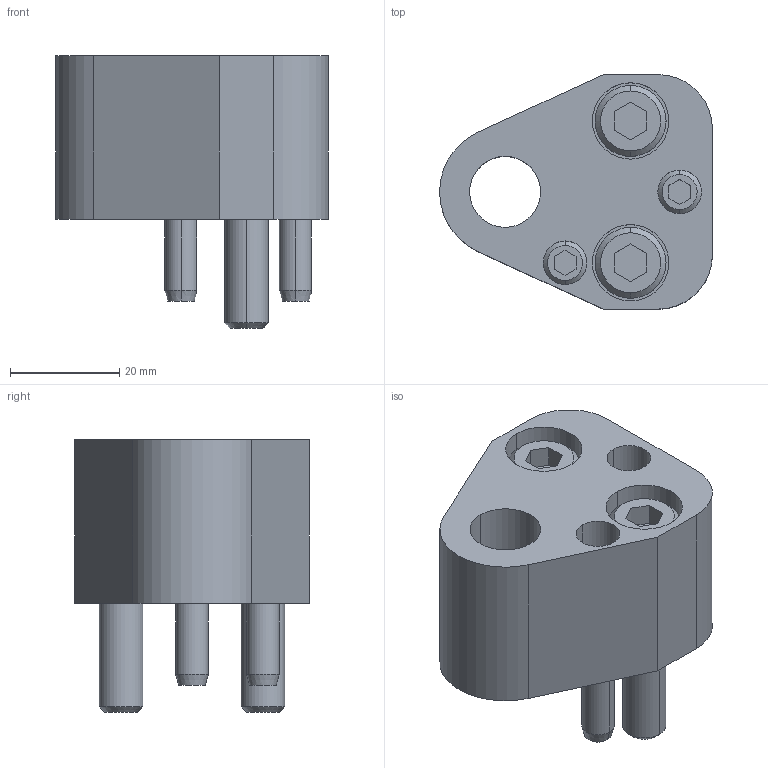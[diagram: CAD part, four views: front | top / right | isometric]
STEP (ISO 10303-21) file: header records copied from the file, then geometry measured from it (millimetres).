
FILE_DESCRIPTION(/* description */ (''),/* implementation_level */ '2;1');
FILE_NAME(/* name */ '3d_apar13_02867_r00.stp',/* time_stamp */ '2011-01-10T14:17:45+09:00',/* author */ ('MISUMI'),/* organization */ (''),/* preprocessor_version */ 'ST-DEVELOPER v11',/* originating_system */ 'UGS - NX 5.0',/* authorisation */ '');
FILE_SCHEMA (('CONFIG_CONTROL_DESIGN'));
Length unit declared in the file: millimetre
Products named in the file (1): 3d_apar13_02867_r00
Bounding box: 50 x 43 x 50 mm (x, y, z)
Volume: 44919.7 mm3; surface area: 17351.8 mm2
Topology: 7 solids, 7 shells, 135 faces, 292 edges, 186 vertices
Faces by surface type: plane 60, cylinder 49, cone 26
Entity records: 3816 total; most frequent: DIRECTION 684, CARTESIAN_POINT 662, ORIENTED_EDGE 584, EDGE_CURVE 292, AXIS2_PLACEMENT_3D 260, VERTEX_POINT 186, LINE 164, VECTOR 164
